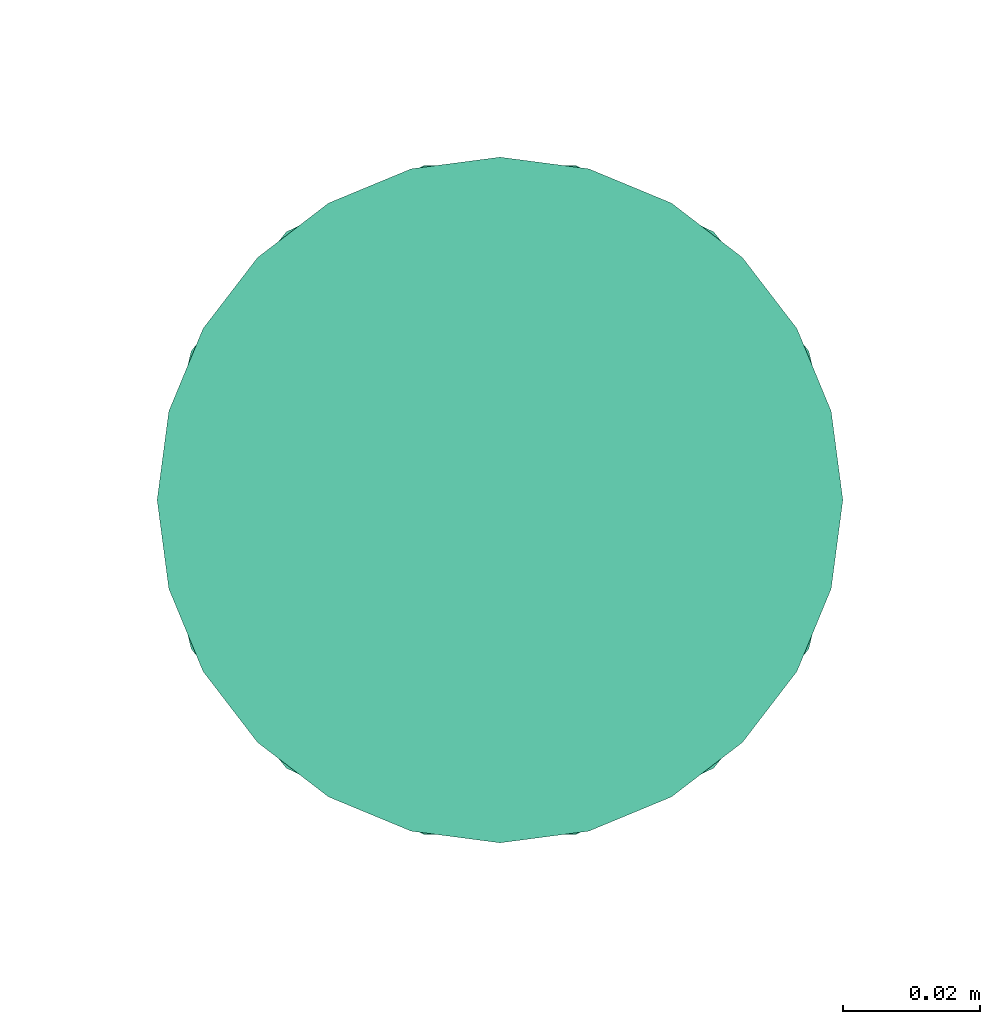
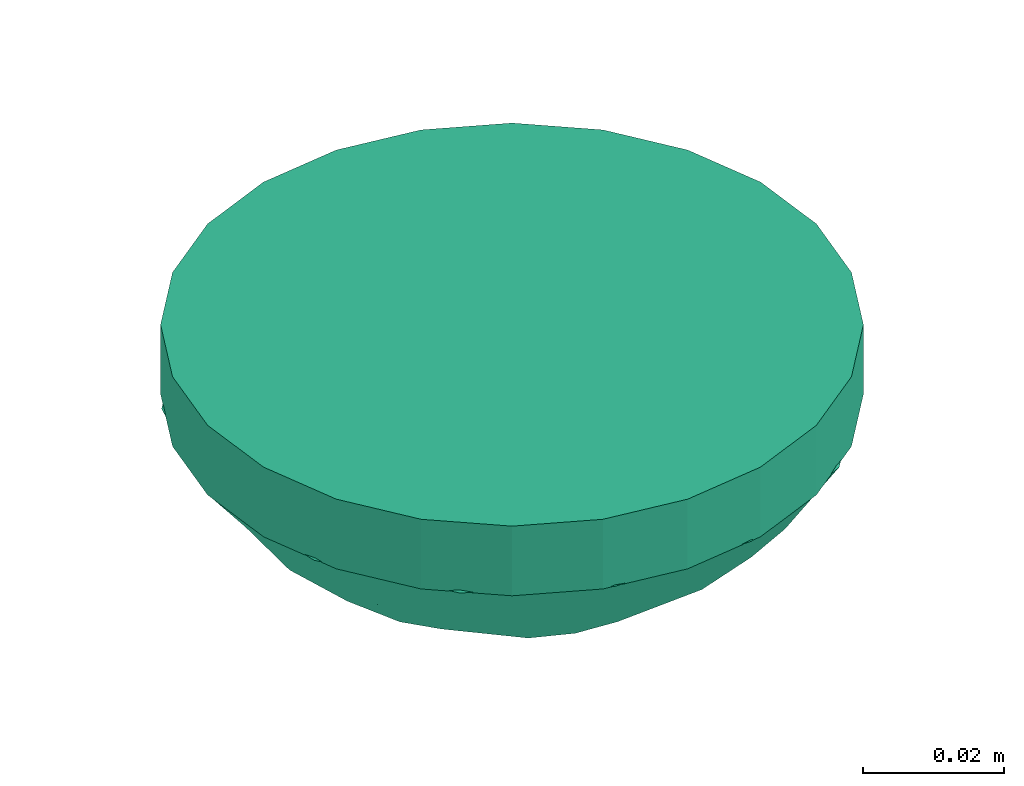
# One storey, part 9 of 10: 1 distribution control element.
"""IFC2X3 building model written with IfcOpenShell, lengths in millimetres."""

from ifc_helpers import new_model, entity, si_unit, converted_unit, derived_unit, direction, frame, origin_with_axes, place, context, subcontext, project, spatial, open_shell, surface_model, source, transform, mapped, type_object, element, save


model = new_model("IFC2X3")

# Units and contexts
model_context = context("Model", 3, precision=0.01, world=frame((0.0, 4.29681676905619e-09, 0.0)), true_north=direction((4.01073788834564e-13, 1.0)))
plan_context = context("Plan", 3, precision=0.01, world=frame((0.0, 4.29681676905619e-09, 0.0)), true_north=direction((4.01073788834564e-13, 1.0)))
body_context = subcontext(model_context, "Body", "Model", "MODEL_VIEW")
ifc_project = project(units=[converted_unit("PLANEANGLEUNIT", "DEGREE", entity("IfcPositiveLengthMeasure", 0.0174532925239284), si_unit("PLANEANGLEUNIT", "RADIAN"), dimensions=[0, 0, 0, 0, 0, 0, 0]), si_unit("AREAUNIT", "SQUARE_METRE"), si_unit("LENGTHUNIT", "METRE", prefix="MILLI"), si_unit("MASSUNIT", "GRAM", prefix="KILO"), si_unit("POWERUNIT", "WATT"), si_unit("PRESSUREUNIT", "PASCAL"), si_unit("FORCEUNIT", "NEWTON", prefix="KILO"), si_unit("ELECTRICVOLTAGEUNIT", "VOLT"), si_unit("ELECTRICCURRENTUNIT", "AMPERE"), si_unit("THERMODYNAMICTEMPERATUREUNIT", "DEGREE_CELSIUS"), si_unit("TIMEUNIT", "SECOND"), si_unit("VOLUMEUNIT", "CUBIC_METRE"), derived_unit("LINEARVELOCITYUNIT", [(si_unit("LENGTHUNIT", "METRE"), 1), (si_unit("TIMEUNIT", "SECOND"), -1)]), derived_unit("VOLUMETRICFLOWRATEUNIT", [(si_unit("VOLUMEUNIT", "CUBIC_METRE"), 1), (si_unit("TIMEUNIT", "SECOND"), -1)]), derived_unit("THERMALTRANSMITTANCEUNIT", [(si_unit("POWERUNIT", "WATT"), 1), (si_unit("THERMODYNAMICTEMPERATUREUNIT", "KELVIN"), -1), (si_unit("AREAUNIT", "SQUARE_METRE"), -1)]), derived_unit("SOUNDPRESSUREUNIT", [(si_unit("PRESSUREUNIT", "PASCAL"), 1)])], contexts=[model_context, plan_context])

# Site, building, storey
site_placement = place(None, frame((0.0, -4.29681676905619e-09, 0.0), z_axis=(0.0, 0.0, 1.0), x_axis=(1.0, 0.0, 0.0)))
site = spatial("IfcSite", under=ifc_project, at=site_placement, Name="ENGM", CompositionType="ELEMENT")
building_placement = place(site_placement, frame((0.0, 4.29681676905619e-09, 0.0), z_axis=(0.0, 0.0, 1.0), x_axis=(1.0, 0.0, 0.0)))
building = spatial("IfcBuilding", under=site, at=building_placement, Name="TS", CompositionType="ELEMENT")
storey_placement = place(building_placement, frame((0.0, 0.0, 210900.0), z_axis=(0.0, 0.0, 1.0), x_axis=(1.0, 0.0, 0.0)))
storey = spatial("IfcBuildingStorey", under=building, at=storey_placement, Name="Nivå F", CompositionType="ELEMENT", Elevation=210900.0)

# Distribution control element
alarm_type = type_object("IfcAlarmType", Name="Standard", PredefinedType="NOTDEFINED")
shared_shape = source(origin_with_axes(), body_context, "Body", "SurfaceModel", [
    surface_model("IfcShellBasedSurfaceModel", [(12.94095, -48.29629, 0.0), (25.0, -43.30127, 0.0), (35.35534, -35.35534, 0.0), (48.29629, -12.94095, 0.0), (-48.29629, -12.94095, 0.0), (43.30127, -25.0, 0.0), (-43.30127, 25.0, 0.0), (0.0, -50.0, 0.0), (-25.0, -43.30127, 0.0), (-12.94095, -48.29629, 0.0), (-35.35534, -35.35534, 0.0), (-43.30127, -25.0, 0.0), (50.0, 0.0, 0.0), (48.29629, 12.94095, 0.0), (43.30127, 25.0, 0.0), (35.35534, 35.35534, 0.0), (25.0, 43.30127, 0.0), (12.94095, 48.29629, 0.0), (0.0, 50.0, 0.0), (-50.0, 0.0, 0.0), (-48.29629, 12.94095, 0.0), (-25.0, 43.30127, 0.0), (-35.35534, 35.35534, 0.0), (-12.94095, 48.29629, 0.0), (7.67608, -31.0637, -31.12862), (4.05558, -21.70832, -36.64985), (0.0, -29.66445, -32.67364), (-2.79506, -11.01274, -40.03244), (0.0, -15.02283, -39.14225), (0.0, 0.0, -41.2), (-10.96897, -48.05821, -11.62353), (0.0, -48.05821, -11.62353), (-4.81398, -42.72521, -21.00498), (8.70709, -20.82992, -36.43505), (15.71552, -5.73014, -38.63692), (11.70406, -8.93591, -39.22442), (-30.53049, -30.53049, -20.78559), (-37.57342, -29.96381, -11.62353), (-30.73438, -38.53969, -11.62353), (2.79506, -11.01274, -40.03244), (-3.86054, -22.19731, -36.45535), (-5.26404, -10.58292, -39.93531), (14.7105, -2.44735, -39.17287), (29.88459, -8.08395, -31.83758), (19.69501, 0.0, -37.61326), (36.86111, 0.0, -27.3136), (39.91738, -12.96556, -22.20584), (15.96042, -18.5819, -35.54351), (6.90318, -8.6993, -40.08507), (5.27523, -10.65267, -39.92066), (9.8475, 0.0, -39.40663), (44.41246, -21.38792, -11.62353), (35.75519, -22.60462, -21.82555), (14.18319, -29.14709, -30.83464), (27.04793, -27.53652, -25.72187), (-8.70709, -20.82992, -36.43505), (-23.09167, -36.6454, -20.61752), (-21.97774, -27.94759, -28.42621), (47.34362, -8.5457, -11.62353), (-13.06353, -14.68735, -37.62779), (-11.17668, -7.31629, -39.57942), (-24.0032, -14.86215, -33.5417), (-10.29972, -35.43981, -27.274), (-27.45029, -23.011, -28.20593), (-16.76867, -32.57462, -27.50904), (-19.69501, 0.0, -37.61326), (-18.91126, -5.90044, -37.56966), (-10.71559, -2.12902, -40.12136), (-14.62106, -41.7846, -19.41202), (-20.85168, -43.29895, -11.62353), (4.57466, -40.60127, -23.43443), (-43.10588, 0.0, -19.4329), (-46.85329, -10.69396, -11.62353), (-40.87954, -13.25965, -21.02828), (-32.72348, -9.70245, -29.56139), (-36.86111, 0.0, -27.3136), (10.96897, -48.05821, -11.62353), (17.88349, -37.13545, -23.04571), (-35.00862, -20.27281, -23.86247), (20.85168, -43.29895, -11.62353), (30.73438, -38.53969, -11.62353), (37.57342, -29.96381, -11.62353), (24.0032, -14.86215, -33.5417), (43.10588, 0.0, -19.4329), (28.27806, 0.0, -32.46343), (49.29412, 0.0, -11.62353), (-6.29727, -6.90778, -40.41247), (-9.83734, -4.07711, -40.17573), (-28.27805, 0.0, -32.46344), (-44.41246, -21.38792, -11.62353), (-49.29412, 0.0, -11.62353), (-9.84751, 0.0, -39.40663), (-14.21719, 3.92949, -39.21761), (2.79506, 11.01274, -40.03244), (8.70709, 20.82992, -36.43505), (3.86054, 22.19731, -36.45535), (-9.74719, 10.70904, -39.29066), (-16.87279, 22.34319, -33.67768), (-19.26591, 15.71456, -35.36294), (24.0032, 14.86215, -33.5417), (11.17668, 7.31629, -39.57942), (18.91125, 5.90044, -37.56966), (0.0, 29.66445, -32.67364), (0.0, 15.02283, -39.14225), (-11.74097, 7.2697, -39.46637), (13.06353, 14.68735, -37.62779), (21.97774, 27.94759, -28.42621), (-7.02886, 21.45447, -36.43505), (-2.43974, 10.65154, -40.12089), (-46.85329, 10.69396, -11.62353), (-43.07761, 0.0, -19.46857), (-37.80528, 11.02644, -24.95988), (30.53049, 30.53049, -20.78559), (37.57342, 29.96381, -11.62353), (30.73438, 38.53969, -11.62353), (-26.44156, 5.37443, -34.25208), (-14.5112, 35.83367, -25.6627), (-4.59504, 40.78212, -23.23833), (-10.96897, 48.05821, -11.62353), (5.26404, 10.58292, -39.93531), (-20.85168, 43.29895, -11.62353), (-30.73438, 38.53969, -11.62353), (-22.17501, 31.24312, -25.99315), (-6.94206, 31.54086, -30.91915), (27.45029, 23.011, -28.20593), (9.83734, 4.07711, -40.17573), (10.71466, 2.12844, -40.12157), (14.62106, 41.7846, -19.41201), (23.09167, 36.6454, -20.61752), (20.85168, 43.29895, -11.62353), (10.29972, 35.43981, -27.274), (-29.8461, 26.39463, -24.49477), (4.76512, 42.55573, -21.21352), (-33.50362, 18.51408, -26.02511), (46.85329, 10.69396, -11.62353), (40.87954, 13.25965, -21.02828), (32.72348, 9.70245, -29.56139), (0.0, 48.05821, -11.62353), (-5.58546, 11.46771, -39.72431), (16.76867, 32.57462, -27.50904), (35.00862, 20.27281, -23.86247), (6.29727, 6.90778, -40.41247), (9.80274, 0.0, -39.41479), (44.41246, 21.38792, -11.62353), (10.96897, 48.05821, -11.62353), (-25.94922, 12.36153, -33.2386), (-37.57342, 29.96381, -11.62353), (-44.41246, 21.38792, -11.62353), (46.58288, -14.97139, -12.0), (46.85329, -10.69396, -11.62353), (45.63288, -16.04094, -11.62353), (-26.16238, -41.50528, -12.0), (-21.15027, -43.91899, -12.0), (38.11147, -30.39288, -12.0), (34.64298, -34.74223, -12.0), (11.12605, -48.7464, -12.0), (5.56302, -48.7464, -12.0), (-16.13816, -46.33269, -12.0), (-15.91033, -45.67858, -11.62353), (21.15027, -43.91899, -12.0), (25.79303, -40.91932, -11.62353), (49.14572, -3.74285, -12.0), (48.07371, -5.34698, -11.62353), (48.29144, -7.4857, -12.0), (34.1539, -34.25175, -11.62353), (31.17449, -39.09157, -12.0), (41.57996, -26.04353, -12.0), (40.99294, -25.67586, -11.62353), (15.91033, -45.67858, -11.62353), (16.13816, -46.33269, -12.0), (45.81566, -18.33279, -12.0), (0.0, -48.7464, -12.0), (5.48449, -48.05821, -11.62353), (-11.12605, -48.7464, -12.0), (-5.56302, -48.7464, -12.0), (-38.11147, -30.39288, -12.0), (-41.57996, -26.04353, -12.0), (26.16238, -41.50528, -12.0), (-45.92524, -14.76003, -11.62353), (-47.52422, -10.84709, -12.0), (-46.28633, -16.27064, -12.0), (-25.79303, -40.91932, -11.62353), (-31.17449, -39.09157, -12.0), (-34.64298, -34.74223, -12.0), (-34.1539, -34.25175, -11.62353), (-47.60968, -7.38002, -11.62353), (-48.76211, -5.42355, -12.0), (-5.48449, -48.05821, -11.62353), (47.43716, -11.22855, -12.0), (-40.99294, -25.67586, -11.62353), (-45.04844, -21.69419, -12.0), (-45.16885, -18.07398, -11.62353), (-48.4519, -3.69001, -11.62353), (-50.0, 0.0, -12.0), (-46.76746, -11.07003, -11.62353), (45.04844, -21.69419, -12.0), (50.0, 0.0, -12.0), (-46.58288, 14.97139, -12.0), (-45.63288, 16.04094, -11.62353), (26.16238, 41.50528, -12.0), (21.15027, 43.91899, -12.0), (-38.11147, 30.39288, -12.0), (-34.64298, 34.74223, -12.0), (-11.12605, 48.7464, -12.0), (-5.56302, 48.7464, -12.0), (16.13816, 46.33269, -12.0), (15.91033, 45.67858, -11.62353), (-21.15027, 43.91899, -12.0), (-25.79303, 40.91932, -11.62353), (-49.14572, 3.74285, -12.0), (-48.07371, 5.34698, -11.62353), (-48.29144, 7.4857, -12.0), (-34.1539, 34.25175, -11.62353), (-31.17449, 39.09157, -12.0), (-41.57996, 26.04353, -12.0), (-40.99294, 25.67586, -11.62353), (-15.91033, 45.67858, -11.62353), (-16.13816, 46.33269, -12.0), (-45.81566, 18.33279, -12.0), (0.0, 48.7464, -12.0), (-5.48449, 48.05821, -11.62353), (11.12605, 48.7464, -12.0), (5.56302, 48.7464, -12.0), (38.11147, 30.39288, -12.0), (41.57996, 26.04353, -12.0), (-26.16238, 41.50528, -12.0), (45.92524, 14.76003, -11.62353), (47.52422, 10.84709, -12.0), (46.28633, 16.27064, -12.0), (25.79303, 40.91932, -11.62353), (31.17449, 39.09157, -12.0), (34.64298, 34.74223, -12.0), (34.1539, 34.25175, -11.62353), (47.60968, 7.38002, -11.62353), (48.76211, 5.42355, -12.0), (5.48449, 48.05821, -11.62353), (-47.43716, 11.22855, -12.0), (40.99294, 25.67586, -11.62353), (45.04844, 21.69419, -12.0), (45.16885, 18.07398, -11.62353), (48.4519, 3.69001, -11.62353), (46.76746, 11.07003, -11.62353), (-45.04844, 21.69419, -12.0), (0.0, 0.0, -42.0), (5.33942, -10.73446, -40.7172), (2.83508, -11.17044, -40.81571), (43.69448, 0.0, -19.95738), (47.52422, -10.84709, -12.0), (40.33134, -11.52809, -23.43317), (-7.786, -31.50853, -31.7844), (-4.11366, -22.01918, -37.3847), (0.0, -30.08924, -33.35155), (11.0079, -6.8158, -40.5011), (12.93665, -14.0657, -38.68041), (14.83043, -42.38295, -19.90001), (23.38736, -37.17555, -21.14005), (28.50165, -6.13646, -33.9246), (25.39298, -14.32468, -33.9246), (22.46861, -28.30325, -28.98192), (31.02402, -31.02401, -21.19602), (3.91582, -22.51517, -37.1874), (10.44721, -35.94731, -27.87458), (9.98852, 0.0, -40.18095), (14.48263, -4.02214, -39.9702), (0.0, -15.23795, -39.91278), (19.97704, 0.0, -38.3619), (-11.81668, -7.81843, -40.19998), (-7.48214, -8.20752, -40.901), (21.78942, -19.68136, -33.79957), (8.83177, -21.1282, -37.16682), (4.88291, -43.33703, -21.51579), (-18.13958, -37.66723, -23.58574), (-4.64017, -41.18267, -23.98003), (35.06539, -22.09313, -23.97816), (-15.38276, -16.90014, -37.18762), (-14.38629, -29.56446, -31.48621), (-27.45219, -27.42471, -26.6295), (-41.95596, -9.3663, -22.25327), (-37.38895, 0.0, -27.91475), (-31.18445, -7.87542, -31.98758), (-8.83177, -21.1282, -37.16682), (-19.97704, 0.0, -38.3619), (-17.78963, -5.45275, -38.85817), (-2.83508, -11.17044, -40.81571), (-9.98852, 0.0, -40.18095), (-48.02157, -8.66807, -12.0), (-43.72314, 0.0, -19.92121), (-5.33942, -10.73446, -40.7172), (16.99278, -32.85857, -28.25968), (-37.03558, -17.24643, -24.60212), (-30.47074, -20.85231, -28.31969), (-36.64373, -25.17991, -20.46623), (-25.39298, -14.32468, -33.9246), (-28.68299, 0.0, -33.13833), (28.683, 0.0, -33.13833), (37.38895, 0.0, -27.91475), (-31.02401, 31.02402, -21.19602), (-43.69448, 0.0, -19.95738), (-47.52422, 10.84709, -12.0), (-40.33134, 11.52809, -23.43317), (-14.83043, 42.38294, -19.90002), (-23.38736, 37.17555, -21.14005), (7.786, 31.50853, -31.7844), (4.11366, 22.01918, -37.3847), (0.0, 30.08924, -33.35155), (-11.0079, 6.8158, -40.5011), (-21.78942, 19.68136, -33.79957), (-12.93665, 14.0657, -38.68041), (-25.39298, 14.32468, -33.9246), (-28.50164, 6.13646, -33.9246), (-22.4686, 28.30325, -28.98192), (-8.83177, 21.1282, -37.16682), (-3.91582, 22.51517, -37.1874), (-10.44721, 35.94731, -27.87459), (-14.48263, 4.02214, -39.9702), (-2.83508, 11.17044, -40.81571), (0.0, 15.23795, -39.91278), (-4.88291, 43.33703, -21.51579), (18.13958, 37.66723, -23.58574), (4.64017, 41.18267, -23.98003), (-35.06539, 22.09313, -23.97816), (15.38276, 16.90014, -37.18762), (14.38629, 29.56446, -31.48621), (27.45219, 27.42471, -26.6295), (-16.99277, 32.85857, -28.25968), (41.95596, 9.3663, -22.25327), (31.18445, 7.87542, -31.98758), (17.78963, 5.45275, -38.85817), (2.83508, 11.17044, -40.81571), (8.83177, 21.1282, -37.16682), (48.02157, 8.66807, -12.0), (43.72314, 0.0, -19.9212), (11.81668, 7.81843, -40.19998), (7.48214, 8.20752, -40.901), (5.33942, 10.73446, -40.7172), (-5.33942, 10.73446, -40.7172), (37.03558, 17.24643, -24.60212), (30.47074, 20.85231, -28.31969), (36.64373, 25.17991, -20.46623), (25.39298, 14.32468, -33.9246), (12.94095, -48.29629, -11.9), (25.0, -43.30127, -11.9), (35.35534, -35.35534, -11.9), (48.29629, -12.94095, -11.9), (-48.29629, -12.94095, -11.9), (43.30127, -25.0, -11.9), (-43.30127, 25.0, -11.9), (0.0, -50.0, -11.9), (-25.0, -43.30127, -11.9), (-12.94095, -48.29629, -11.9), (-35.35534, -35.35534, -11.9), (-43.30127, -25.0, -11.9), (50.0, 0.0, -11.9), (48.29629, 12.94095, -11.9), (43.30127, 25.0, -11.9), (35.35534, 35.35534, -11.9), (25.0, 43.30127, -11.9), (12.94095, 48.29629, -11.9), (0.0, 50.0, -11.9), (-50.0, 0.0, -11.9), (-48.29629, 12.94095, -11.9), (-25.0, 43.30127, -11.9), (-35.35534, 35.35534, -11.9), (-12.94095, 48.29629, -11.9), (0.0, 50.0, -12.1), (12.94095, 48.29629, -12.1), (25.0, 43.30127, -12.1), (-43.30127, 25.0, -12.1), (35.35534, 35.35534, -12.1), (43.30127, 25.0, -12.1), (48.29629, 12.94095, -12.1), (-25.0, 43.30127, -12.1), (-35.35534, 35.35534, -12.1), (-12.94095, 48.29629, -12.1), (-50.0, 0.0, -12.1), (-48.29629, 12.94095, -12.1), (-48.29629, -12.94095, -12.1), (48.29629, -12.94095, -12.1), (12.94095, -48.29629, -12.1), (43.30127, -25.0, -12.1), (35.35534, -35.35534, -12.1), (25.0, -43.30127, -12.1), (-25.0, -43.30127, -12.1), (-35.35534, -35.35534, -12.1), (-43.30127, -25.0, -12.1), (0.0, -50.0, -12.1), (-12.94095, -48.29629, -12.1), (50.0, 0.0, -12.1), (0.0, 50.0, -12.0), (12.94095, 48.29629, -12.0), (25.0, 43.30127, -12.0), (-43.30127, 25.0, -12.0), (35.35534, 35.35534, -12.0), (43.30127, 25.0, -12.0), (48.29629, 12.94095, -12.0), (-25.0, 43.30127, -12.0), (-35.35534, 35.35534, -12.0), (-12.94095, 48.29629, -12.0), (-48.29629, 12.94095, -12.0), (-48.29629, -12.94095, -12.0), (48.29629, -12.94095, -12.0), (12.94095, -48.29629, -12.0), (43.30127, -25.0, -12.0), (35.35534, -35.35534, -12.0), (25.0, -43.30127, -12.0), (-25.0, -43.30127, -12.0), (-35.35534, -35.35534, -12.0), (-43.30127, -25.0, -12.0), (0.0, -50.0, -12.0), (-12.94095, -48.29629, -12.0)], [open_shell([[[0, 1, 2]], [[0, 2, 3]], [[0, 3, 4]], [[3, 2, 5]], [[6, 4, 3]], [[7, 8, 9]], [[7, 0, 8]], [[10, 4, 11]], [[10, 8, 0]], [[4, 10, 0]], [[3, 12, 6]], [[13, 14, 15]], [[13, 15, 16]], [[16, 17, 18]], [[13, 16, 6]], [[6, 16, 18]], [[19, 6, 20]], [[4, 6, 19]], [[6, 21, 22]], [[21, 6, 23]], [[18, 23, 6]], [[6, 12, 13]], [[24, 25, 26]], [[27, 28, 29]], [[30, 31, 32]], [[24, 33, 25]], [[34, 29, 35]], [[36, 37, 38]], [[39, 29, 28]], [[26, 28, 40]], [[29, 41, 27]], [[42, 43, 44]], [[45, 43, 46]], [[47, 48, 49]], [[42, 44, 50]], [[51, 46, 52]], [[47, 53, 54]], [[27, 55, 40]], [[56, 57, 36]], [[28, 27, 40]], [[51, 58, 46]], [[59, 60, 61]], [[62, 40, 55]], [[59, 61, 63]], [[57, 64, 55]], [[65, 66, 67]], [[68, 56, 69]], [[40, 62, 26]], [[70, 24, 26]], [[61, 60, 66]], [[53, 33, 24]], [[49, 29, 39]], [[71, 72, 73]], [[74, 61, 66]], [[73, 74, 75]], [[49, 39, 33]], [[31, 76, 70]], [[76, 77, 70]], [[78, 61, 74]], [[59, 57, 55]], [[62, 68, 32]], [[77, 76, 79]], [[32, 26, 62]], [[54, 77, 80]], [[77, 53, 24]], [[31, 70, 32]], [[26, 32, 70]], [[54, 81, 52]], [[54, 82, 47]], [[82, 35, 47]], [[47, 35, 48]], [[35, 82, 34]], [[48, 35, 29]], [[43, 34, 82]], [[29, 34, 42]], [[83, 46, 58]], [[43, 84, 44]], [[54, 52, 82]], [[45, 46, 83]], [[58, 85, 83]], [[82, 46, 43]], [[82, 52, 46]], [[41, 55, 27]], [[81, 54, 80]], [[81, 51, 52]], [[60, 86, 29]], [[77, 24, 70]], [[33, 39, 25]], [[87, 66, 60]], [[66, 88, 74]], [[78, 73, 89]], [[73, 75, 71]], [[56, 36, 38]], [[63, 78, 36]], [[39, 28, 25]], [[73, 78, 74]], [[71, 90, 72]], [[26, 25, 28]], [[54, 53, 77]], [[47, 33, 53]], [[78, 89, 37]], [[63, 36, 57]], [[78, 37, 36]], [[69, 30, 68]], [[64, 57, 56]], [[56, 38, 69]], [[59, 63, 57]], [[61, 78, 63]], [[32, 68, 30]], [[68, 62, 64]], [[68, 64, 56]], [[55, 64, 62]], [[59, 55, 41]], [[86, 60, 59]], [[29, 86, 41]], [[41, 86, 59]], [[47, 49, 33]], [[48, 29, 49]], [[79, 80, 77]], [[29, 42, 50]], [[43, 42, 34]], [[43, 45, 84]], [[29, 87, 60]], [[87, 67, 66]], [[29, 91, 67]], [[67, 87, 29]], [[65, 67, 91]], [[88, 66, 65]], [[88, 75, 74]], [[89, 73, 72]], [[91, 29, 92]], [[93, 94, 95]], [[96, 97, 98]], [[99, 100, 101]], [[102, 103, 95]], [[96, 98, 104]], [[105, 106, 94]], [[107, 108, 103]], [[109, 110, 111]], [[112, 113, 114]], [[103, 102, 107]], [[65, 92, 115]], [[75, 115, 111]], [[103, 108, 29]], [[93, 103, 29]], [[107, 116, 97]], [[116, 117, 118]], [[103, 93, 95]], [[29, 119, 93]], [[105, 100, 99]], [[120, 121, 122]], [[102, 123, 107]], [[105, 99, 124]], [[125, 126, 101]], [[127, 128, 129]], [[95, 130, 102]], [[131, 98, 97]], [[104, 92, 29]], [[102, 132, 117]], [[133, 98, 131]], [[83, 134, 135]], [[136, 99, 101]], [[135, 136, 45]], [[118, 117, 137]], [[97, 96, 138]], [[122, 121, 131]], [[130, 95, 94]], [[106, 139, 94]], [[140, 99, 136]], [[128, 106, 112]], [[127, 132, 130]], [[123, 117, 116]], [[132, 102, 130]], [[119, 94, 93]], [[100, 141, 29]], [[142, 126, 29]], [[125, 101, 100]], [[101, 84, 136]], [[140, 135, 143]], [[135, 45, 83]], [[128, 112, 114]], [[124, 140, 112]], [[140, 143, 113]], [[135, 140, 136]], [[83, 85, 134]], [[124, 112, 106]], [[140, 113, 112]], [[129, 144, 127]], [[139, 106, 128]], [[128, 114, 129]], [[105, 124, 106]], [[99, 140, 124]], [[144, 137, 132]], [[127, 130, 139]], [[144, 132, 127]], [[137, 117, 132]], [[127, 139, 128]], [[94, 139, 130]], [[104, 29, 96]], [[145, 115, 92]], [[145, 92, 104]], [[110, 109, 90]], [[97, 122, 131]], [[145, 104, 98]], [[131, 121, 146]], [[147, 111, 133]], [[111, 115, 145]], [[115, 75, 88]], [[133, 111, 145]], [[138, 108, 107]], [[138, 29, 108]], [[97, 138, 107]], [[138, 96, 29]], [[105, 94, 119]], [[141, 100, 105]], [[29, 141, 119]], [[119, 141, 105]], [[117, 123, 102]], [[116, 107, 123]], [[116, 118, 120]], [[29, 125, 100]], [[44, 101, 126]], [[126, 125, 29]], [[44, 126, 142]], [[84, 101, 44]], [[84, 45, 136]], [[143, 135, 134]], [[92, 65, 91]], [[97, 116, 122]], [[122, 116, 120]], [[98, 133, 145]], [[133, 146, 147]], [[88, 65, 115]], [[133, 131, 146]], [[111, 147, 109]], [[110, 75, 111]], [[148, 149, 150]], [[69, 151, 152]], [[153, 81, 154]], [[155, 76, 156]], [[152, 157, 158]], [[79, 159, 160]], [[161, 85, 162]], [[163, 162, 149]], [[164, 165, 154]], [[166, 51, 167]], [[168, 155, 169]], [[51, 170, 150]], [[31, 171, 172]], [[173, 30, 157]], [[69, 152, 158]], [[31, 174, 171]], [[175, 37, 176]], [[79, 169, 159]], [[165, 80, 177]], [[178, 179, 180]], [[153, 167, 81]], [[181, 182, 151]], [[80, 165, 164]], [[183, 38, 184]], [[185, 186, 179]], [[164, 154, 81]], [[159, 177, 160]], [[187, 173, 174]], [[156, 172, 171]], [[149, 148, 188]], [[175, 184, 37]], [[189, 176, 37]], [[89, 190, 189]], [[190, 191, 180]], [[192, 193, 186]], [[179, 178, 194]], [[167, 153, 166]], [[166, 195, 51]], [[169, 79, 168]], [[168, 76, 155]], [[174, 31, 187]], [[187, 30, 173]], [[151, 69, 181]], [[181, 38, 182]], [[184, 175, 183]], [[183, 182, 38]], [[162, 163, 161]], [[161, 196, 85]], [[186, 185, 192]], [[192, 90, 193]], [[170, 51, 195]], [[170, 148, 150]], [[188, 163, 149]], [[177, 80, 160]], [[156, 76, 172]], [[157, 30, 158]], [[189, 190, 176]], [[191, 190, 89]], [[191, 178, 180]], [[194, 185, 179]], [[197, 109, 198]], [[129, 199, 200]], [[201, 146, 202]], [[203, 118, 204]], [[200, 205, 206]], [[120, 207, 208]], [[209, 90, 210]], [[211, 210, 109]], [[212, 213, 202]], [[214, 147, 215]], [[216, 203, 217]], [[147, 218, 198]], [[137, 219, 220]], [[221, 144, 205]], [[129, 200, 206]], [[137, 222, 219]], [[223, 113, 224]], [[120, 217, 207]], [[213, 121, 225]], [[226, 227, 228]], [[201, 215, 146]], [[229, 230, 199]], [[121, 213, 212]], [[231, 114, 232]], [[233, 234, 227]], [[212, 202, 146]], [[207, 225, 208]], [[235, 221, 222]], [[204, 220, 219]], [[109, 197, 236]], [[223, 232, 113]], [[237, 224, 113]], [[143, 238, 237]], [[238, 239, 228]], [[240, 196, 234]], [[227, 226, 241]], [[215, 201, 214]], [[214, 242, 147]], [[217, 120, 216]], [[216, 118, 203]], [[222, 137, 235]], [[235, 144, 221]], [[199, 129, 229]], [[229, 114, 230]], [[232, 223, 231]], [[231, 230, 114]], [[210, 211, 209]], [[209, 193, 90]], [[234, 233, 240]], [[240, 85, 196]], [[218, 147, 242]], [[218, 197, 198]], [[236, 211, 109]], [[225, 121, 208]], [[204, 118, 220]], [[205, 144, 206]], [[237, 238, 224]], [[239, 238, 143]], [[239, 226, 228]], [[241, 233, 227]], [[243, 244, 245]], [[246, 247, 248]], [[249, 250, 251]], [[252, 253, 243]], [[254, 255, 159]], [[256, 248, 257]], [[258, 259, 255]], [[251, 260, 261]], [[243, 262, 263]], [[251, 264, 260]], [[265, 256, 263]], [[266, 243, 267]], [[245, 264, 243]], [[252, 263, 257]], [[268, 258, 253]], [[245, 269, 260]], [[264, 245, 260]], [[155, 171, 270]], [[271, 272, 173]], [[273, 257, 248]], [[274, 275, 276]], [[252, 268, 253]], [[277, 278, 279]], [[261, 260, 269]], [[275, 280, 249]], [[276, 182, 175]], [[281, 282, 279]], [[283, 243, 264]], [[249, 280, 250]], [[259, 153, 165]], [[284, 243, 282]], [[277, 285, 286]], [[287, 243, 283]], [[287, 283, 280]], [[243, 266, 282]], [[272, 249, 251]], [[171, 173, 272]], [[253, 258, 269]], [[269, 258, 288]], [[261, 254, 270]], [[271, 173, 152]], [[270, 251, 261]], [[276, 271, 182]], [[271, 275, 249]], [[171, 272, 270]], [[251, 270, 272]], [[289, 290, 291]], [[290, 274, 276]], [[266, 274, 292]], [[244, 269, 245]], [[271, 249, 272]], [[280, 283, 250]], [[282, 266, 292]], [[279, 282, 292]], [[290, 289, 292]], [[279, 293, 281]], [[289, 279, 292]], [[279, 289, 277]], [[285, 193, 286]], [[277, 190, 285]], [[277, 286, 278]], [[190, 277, 289]], [[283, 264, 250]], [[251, 250, 264]], [[276, 275, 271]], [[289, 291, 190]], [[274, 280, 275]], [[263, 252, 243]], [[268, 252, 257]], [[247, 246, 196]], [[256, 265, 294]], [[248, 256, 295]], [[257, 263, 256]], [[248, 195, 273]], [[255, 259, 165]], [[273, 259, 268]], [[253, 269, 244]], [[280, 274, 287]], [[244, 243, 253]], [[267, 287, 274]], [[287, 267, 243]], [[266, 267, 274]], [[273, 195, 153]], [[268, 259, 258]], [[273, 153, 259]], [[159, 155, 254]], [[288, 258, 255]], [[255, 165, 159]], [[270, 254, 155]], [[254, 261, 288]], [[254, 288, 255]], [[269, 288, 261]], [[182, 271, 152]], [[273, 268, 257]], [[282, 281, 284]], [[279, 278, 293]], [[274, 290, 292]], [[291, 276, 175]], [[276, 291, 290]], [[190, 291, 175]], [[248, 295, 246]], [[295, 256, 294]], [[262, 265, 263]], [[247, 195, 248]], [[296, 201, 213]], [[297, 298, 299]], [[300, 301, 207]], [[302, 303, 304]], [[305, 306, 307]], [[299, 308, 309]], [[307, 310, 311]], [[304, 312, 313]], [[243, 284, 314]], [[281, 309, 314]], [[315, 316, 243]], [[308, 305, 314]], [[310, 307, 306]], [[305, 307, 243]], [[203, 219, 317]], [[316, 315, 312]], [[310, 296, 301]], [[318, 319, 221]], [[320, 308, 299]], [[321, 322, 323]], [[311, 310, 324]], [[325, 295, 326]], [[313, 312, 311]], [[315, 311, 312]], [[323, 230, 223]], [[304, 316, 312]], [[265, 327, 326]], [[328, 243, 316]], [[302, 329, 303]], [[322, 329, 302]], [[262, 243, 327]], [[325, 330, 331]], [[332, 243, 333]], [[334, 328, 329]], [[243, 332, 327]], [[243, 335, 315]], [[334, 243, 328]], [[219, 221, 319]], [[319, 302, 304]], [[313, 300, 317]], [[318, 221, 200]], [[317, 304, 313]], [[323, 318, 230]], [[318, 322, 302]], [[219, 319, 317]], [[304, 317, 319]], [[336, 337, 338]], [[337, 321, 323]], [[332, 321, 339]], [[335, 311, 315]], [[318, 302, 319]], [[329, 328, 303]], [[327, 332, 339]], [[326, 327, 339]], [[337, 336, 339]], [[326, 294, 265]], [[336, 326, 339]], [[326, 336, 325]], [[330, 196, 331]], [[325, 238, 330]], [[325, 331, 295]], [[238, 325, 336]], [[328, 316, 303]], [[304, 303, 316]], [[323, 322, 318]], [[336, 338, 238]], [[321, 329, 322]], [[314, 305, 243]], [[306, 305, 308]], [[298, 297, 193]], [[309, 281, 293]], [[299, 309, 278]], [[308, 314, 309]], [[299, 242, 320]], [[301, 296, 213]], [[320, 296, 306]], [[307, 311, 335]], [[329, 321, 334]], [[335, 243, 307]], [[333, 334, 321]], [[334, 333, 243]], [[332, 333, 321]], [[320, 242, 201]], [[306, 296, 310]], [[320, 201, 296]], [[207, 203, 300]], [[324, 310, 301]], [[301, 213, 207]], [[317, 300, 203]], [[300, 313, 324]], [[300, 324, 301]], [[311, 324, 313]], [[200, 230, 318]], [[320, 306, 308]], [[327, 265, 262]], [[326, 295, 294]], [[321, 337, 339]], [[338, 323, 223]], [[323, 338, 337]], [[238, 338, 223]], [[299, 278, 297]], [[278, 309, 293]], [[284, 281, 314]], [[298, 242, 299]], [[340, 341, 342]], [[340, 342, 343]], [[340, 343, 344]], [[343, 342, 345]], [[346, 344, 343]], [[347, 348, 349]], [[347, 340, 348]], [[350, 344, 351]], [[350, 348, 340]], [[344, 350, 340]], [[343, 352, 346]], [[353, 354, 355]], [[353, 355, 356]], [[356, 357, 358]], [[353, 356, 346]], [[346, 356, 358]], [[359, 346, 360]], [[344, 346, 359]], [[346, 361, 362]], [[361, 346, 363]], [[358, 363, 346]], [[346, 352, 353]], [[364, 365, 366]], [[367, 364, 366]], [[368, 369, 370]], [[368, 370, 366]], [[367, 366, 370]], [[371, 367, 372]], [[367, 371, 373]], [[367, 374, 375]], [[367, 373, 364]], [[367, 376, 374]], [[367, 370, 377]], [[376, 367, 377]], [[378, 377, 379]], [[380, 381, 378]], [[380, 378, 379]], [[382, 377, 378]], [[376, 383, 384]], [[376, 377, 383]], [[382, 385, 386]], [[383, 377, 382]], [[378, 385, 382]], [[377, 370, 387]], [[376, 344, 374]], [[384, 351, 376]], [[348, 383, 382]], [[384, 383, 350]], [[349, 382, 386]], [[376, 351, 344]], [[344, 359, 374]], [[349, 348, 382]], [[350, 383, 348]], [[350, 351, 384]], [[347, 349, 386]], [[386, 385, 347]], [[378, 340, 385]], [[381, 341, 378]], [[345, 380, 379]], [[381, 380, 342]], [[343, 379, 377]], [[381, 342, 341]], [[341, 340, 378]], [[352, 343, 377]], [[345, 379, 343]], [[345, 342, 380]], [[387, 352, 377]], [[385, 340, 347]], [[370, 353, 387]], [[369, 354, 370]], [[356, 368, 366]], [[369, 368, 355]], [[357, 366, 365]], [[370, 354, 353]], [[353, 352, 387]], [[357, 356, 366]], [[355, 368, 356]], [[355, 354, 369]], [[358, 357, 365]], [[365, 364, 358]], [[373, 363, 364]], [[371, 361, 373]], [[346, 372, 367]], [[371, 372, 362]], [[360, 367, 375]], [[371, 362, 361]], [[361, 363, 373]], [[359, 360, 375]], [[346, 367, 360]], [[346, 362, 372]], [[374, 359, 375]], [[364, 363, 358]], [[388, 389, 390]], [[391, 388, 390]], [[392, 393, 394]], [[392, 394, 390]], [[391, 390, 394]], [[395, 391, 396]], [[391, 395, 397]], [[391, 193, 398]], [[391, 397, 388]], [[391, 399, 193]], [[391, 394, 400]], [[399, 391, 400]], [[401, 400, 402]], [[403, 404, 401]], [[403, 401, 402]], [[405, 400, 401]], [[399, 406, 407]], [[399, 400, 406]], [[405, 408, 409]], [[406, 400, 405]], [[401, 408, 405]], [[400, 394, 196]], [[399, 4, 193]], [[407, 11, 399]], [[8, 406, 405]], [[407, 406, 10]], [[9, 405, 409]], [[399, 11, 4]], [[4, 19, 193]], [[9, 8, 405]], [[10, 406, 8]], [[10, 11, 407]], [[7, 9, 409]], [[409, 408, 7]], [[401, 0, 408]], [[404, 1, 401]], [[5, 403, 402]], [[404, 403, 2]], [[3, 402, 400]], [[404, 2, 1]], [[1, 0, 401]], [[12, 3, 400]], [[5, 402, 3]], [[5, 2, 403]], [[196, 12, 400]], [[408, 0, 7]], [[394, 13, 196]], [[393, 14, 394]], [[16, 392, 390]], [[393, 392, 15]], [[17, 390, 389]], [[394, 14, 13]], [[13, 12, 196]], [[17, 16, 390]], [[15, 392, 16]], [[15, 14, 393]], [[18, 17, 389]], [[389, 388, 18]], [[397, 23, 388]], [[395, 21, 397]], [[6, 396, 391]], [[395, 396, 22]], [[20, 391, 398]], [[395, 22, 21]], [[21, 23, 397]], [[19, 20, 398]], [[6, 391, 20]], [[6, 22, 396]], [[193, 19, 398]], [[388, 23, 18]]])]),
])
distribution_control_element_placement = place(storey_placement, frame((522793.33466, 453766.85693, 2400.0), z_axis=(0.0, 0.0, 1.0), x_axis=(1.0, 0.0, 0.0)))
element("IfcDistributionControlElement", 1, at=distribution_control_element_placement, inside=storey, type_object=alarm_type, Name="Standard", context=body_context, shape_type="MappedRepresentation", body=[
    mapped(shared_shape, transform((0.0, 0.0, 0.0), scale=1.0)),
])

save(model, "model.ifc")
